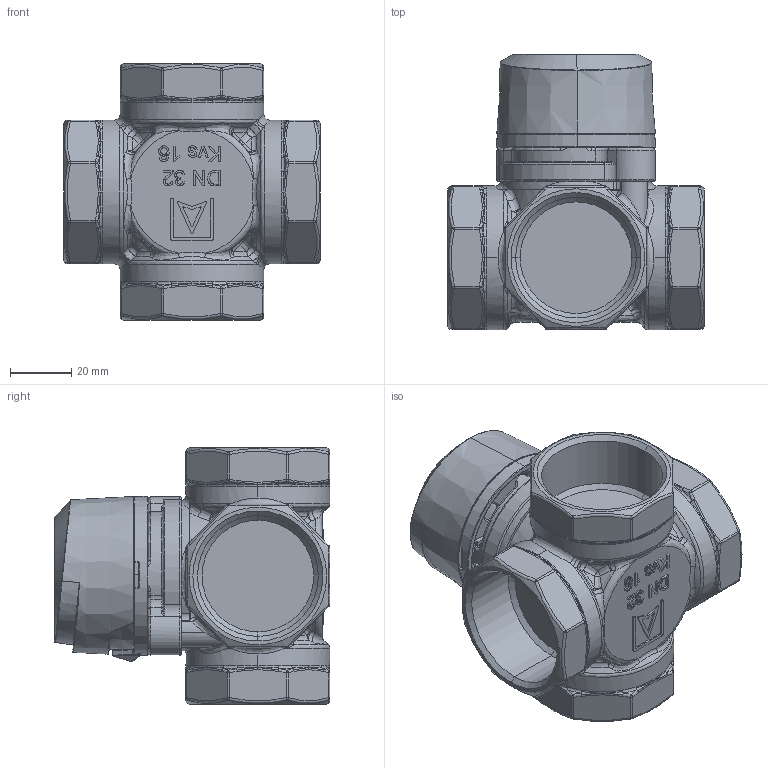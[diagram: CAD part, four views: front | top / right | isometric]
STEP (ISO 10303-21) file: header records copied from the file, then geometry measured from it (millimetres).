
FILE_DESCRIPTION (( 'STEP AP214' ), '1' );
FILE_NAME ('1348510.STEP', '2022-06-07T08:15:49', ( '' ), ( '' ), 'SwSTEP 2.0', 'SolidWorks 2021', '' );
FILE_SCHEMA (( 'AUTOMOTIVE_DESIGN' ));
Length unit declared in the file: millimetre
Products named in the file (7): ARV_nowa generacja (pokr皻這)_1; Sockel Mischerbet. _AFRISO-PL__2017-05-31_1; Pokr皻這 ARV; item_0063956_Œruba_z_³bem_sto¿kowym_din_7991_m4x10_szczego³y_3; 13 485 10_841_2.0_DN32_AFP_181954; nakretka; 1348510
Assembly tree (6 placements, depth 3):
  1348510
    13 485 10_841_2.0_DN32_AFP_181954
    item_0063956_Œruba_z_³bem_sto¿kowym_din_7991_m4x10_szczego³y_3
    nakretka
    Pokr皻這 ARV
      ARV_nowa generacja (pokr皻這)_1
      Sockel Mischerbet. _AFRISO-PL__2017-05-31_1
Bounding box: 84 x 90.12 x 84 mm (x, y, z)
Volume: 170569.6 mm3; surface area: 62242.9 mm2
Topology: 5 solids, 7 shells, 2498 faces, 6310 edges, 3828 vertices
Faces by surface type: bspline 1210, plane 743, cylinder 341, cone 200, torus 4
Entity records: 142058 total; most frequent: CARTESIAN_POINT 76801, ORIENTED_EDGE 12476, DIRECTION 7533, EDGE_CURVE 6238, VERTEX_POINT 3829, AXIS2_PLACEMENT_3D 2673, EDGE_LOOP 2589, ADVANCED_FACE 2498
